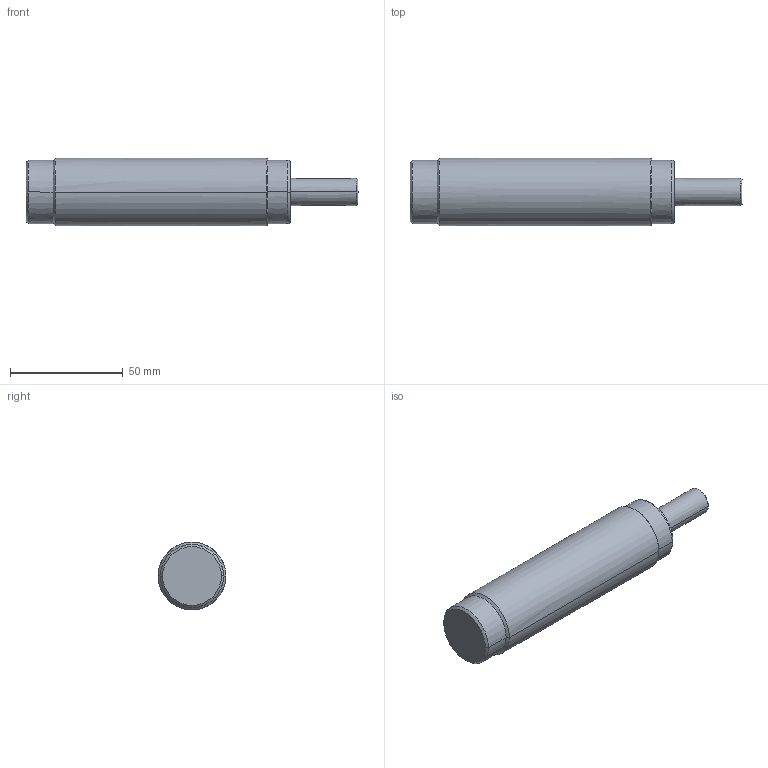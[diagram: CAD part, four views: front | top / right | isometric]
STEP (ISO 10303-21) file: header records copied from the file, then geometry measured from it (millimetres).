
FILE_DESCRIPTION((''),'2;1');
FILE_NAME('873C_DDXX1000E2','2012-07-25T',('Administrator'),(''),'PRO/ENGINEER BY PARAMETRIC TECHNOLOGY CORPORATION, 2006010','PRO/ENGINEER BY PARAMETRIC TECHNOLOGY CORPORATION, 2006010','');
FILE_SCHEMA(('CONFIG_CONTROL_DESIGN'));
Length unit declared in the file: millimetre
Products named in the file (1): 873C_DDXX1000E2
Bounding box: 147 x 30 x 30 mm (x, y, z)
Surface area: 14015.1 mm2 (no closed solid volume)
Topology: 0 solids, 0 shells, 22 faces, 118 edges, 134 vertices
Faces by surface type: bspline 20, torus 2
Entity records: 2964 total; most frequent: CARTESIAN_POINT 2023, DIRECTION 168, TRIMMED_CURVE 122, DEFINITIONAL_REPRESENTATION 84, PCURVE 84, COMPOSITE_CURVE_SEGMENT 84, VECTOR 82, LINE 82
